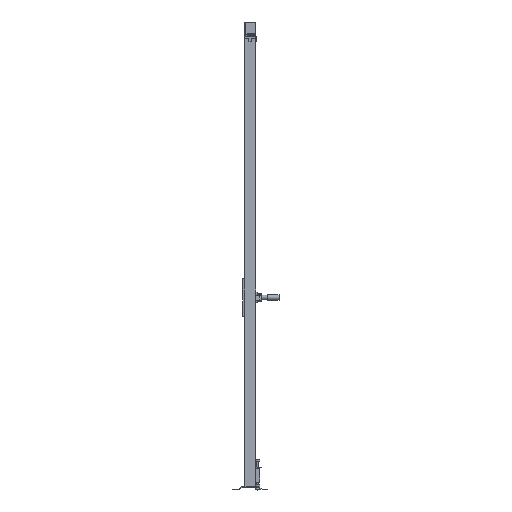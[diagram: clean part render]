
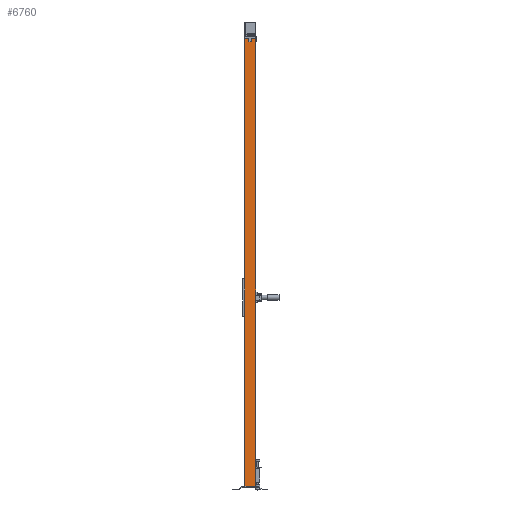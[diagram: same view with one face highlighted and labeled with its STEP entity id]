
A CAD part, left-side view. The second image highlights one B-rep face of the part: STEP entity #6760.
In plain terms, the highlighted planar face has unit normal (-1, 0, 0).
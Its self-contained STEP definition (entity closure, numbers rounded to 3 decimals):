
#835=FACE_OUTER_BOUND('',#1171,.T.);
#1171=EDGE_LOOP('',(#5125,#5126,#5127,#5128));
#1673=LINE('',#9845,#2520);
#1677=LINE('',#9854,#2524);
#1679=LINE('',#9857,#2526);
#1681=LINE('',#9860,#2528);
#2520=VECTOR('',#7939,1.);
#2524=VECTOR('',#7945,1.);
#2526=VECTOR('',#7949,1.);
#2528=VECTOR('',#7953,1.);
#3301=VERTEX_POINT('',#9842);
#3302=VERTEX_POINT('',#9844);
#3305=VERTEX_POINT('',#9851);
#3306=VERTEX_POINT('',#9853);
#4006=EDGE_CURVE('',#3301,#3302,#1673,.T.);
#4010=EDGE_CURVE('',#3305,#3306,#1677,.T.);
#4012=EDGE_CURVE('',#3302,#3305,#1679,.T.);
#4014=EDGE_CURVE('',#3301,#3306,#1681,.T.);
#5125=ORIENTED_EDGE('',*,*,#4014,.T.);
#5126=ORIENTED_EDGE('',*,*,#4010,.F.);
#5127=ORIENTED_EDGE('',*,*,#4012,.F.);
#5128=ORIENTED_EDGE('',*,*,#4006,.F.);
#6471=PLANE('',#7144);
#6760=ADVANCED_FACE('',(#835),#6471,.F.);
#7144=AXIS2_PLACEMENT_3D('',#9859,#7951,#7952);
#7939=DIRECTION('',(0.,-1.,0.));
#7945=DIRECTION('',(0.,1.,0.));
#7949=DIRECTION('',(0.,0.,-1.));
#7951=DIRECTION('center_axis',(1.,0.,0.));
#7952=DIRECTION('ref_axis',(0.,0.,-1.));
#7953=DIRECTION('',(0.,0.,-1.));
#9842=CARTESIAN_POINT('',(-30.,30.,2520.));
#9844=CARTESIAN_POINT('',(-30.,-30.,2520.));
#9845=CARTESIAN_POINT('',(-30.,0.,2520.));
#9851=CARTESIAN_POINT('',(-30.,-30.,20.));
#9853=CARTESIAN_POINT('',(-30.,30.,20.));
#9854=CARTESIAN_POINT('',(-30.,0.,20.));
#9857=CARTESIAN_POINT('',(-30.,-30.,1270.));
#9859=CARTESIAN_POINT('Origin',(-30.,0.,
1270.));
#9860=CARTESIAN_POINT('',(-30.,30.,1270.));
